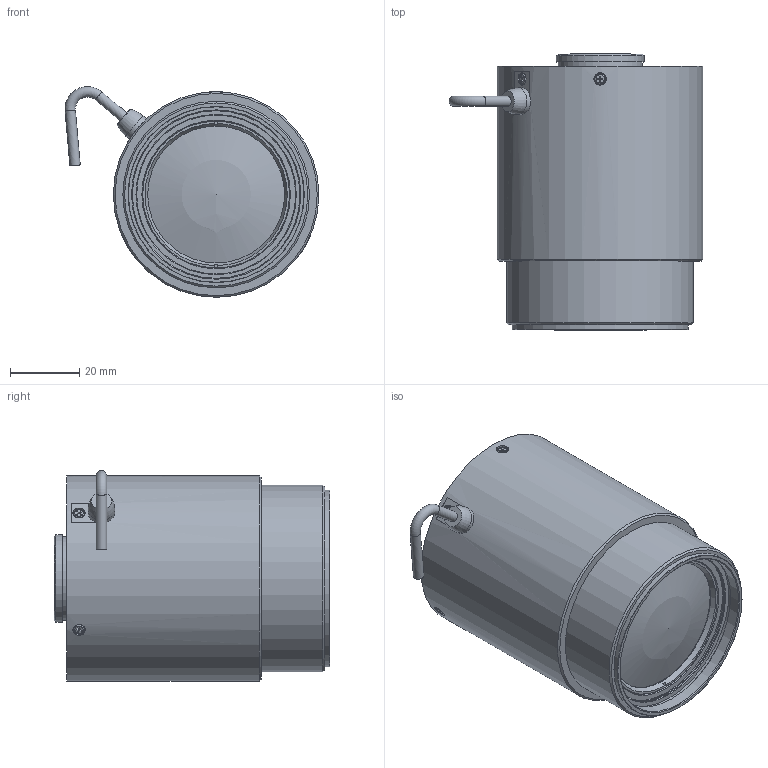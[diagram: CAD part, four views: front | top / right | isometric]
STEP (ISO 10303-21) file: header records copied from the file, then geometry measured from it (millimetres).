
FILE_DESCRIPTION(/* description */ ('Unknown'),/* implementation_level */ '2;1');
FILE_NAME(/* name */ 'Reference 3D-Drawing of ML3Z1226UC-MPW',/* time_stamp */ '2023-04-12T10:20:22+09:00',/* author */ ('Unknown'),/* organization */ ('Unknown'),/* preprocessor_version */ 'ST-DEVELOPER v16.7',/* originating_system */ 'DEX',/* authorisation */ $);
FILE_SCHEMA (('AUTOMOTIVE_DESIGN {1 0 10303 214 3 1 1}'));
Length unit declared in the file: millimetre
Products named in the file (1): ML3Z1226UC-MPW
Bounding box: 73.48 x 79.8 x 60.97 mm (x, y, z)
Volume: 192435.3 mm3; surface area: 21548.5 mm2
Topology: 1 solids, 8 shells, 274 faces, 678 edges, 455 vertices
Faces by surface type: plane 190, cylinder 54, cone 18, torus 10, sphere 2
Full cylindrical faces by diameter (mm): 2 x4, 2.2 x4, 3 x10, 3.6 x4, 3.8 x4, 7.699 x1, 15.7 x1, 20.2 x1, 22 x1, 24.3 x1, 25.4 x1, 29 x1, 29.037 x1, 39.6 x1, 39.643 x1, 42.5 x1, 46 x1, 46.189 x1, 48.5 x1, 49 x1, 51 x1, 54 x1, 59.5 x1
Entity records: 9308 total; most frequent: CARTESIAN_POINT 1377, DIRECTION 1211, ORIENTED_EDGE 1106, EDGE_CURVE 553, LINE 409, VECTOR 409, VERTEX_POINT 405, AXIS2_PLACEMENT_3D 401
